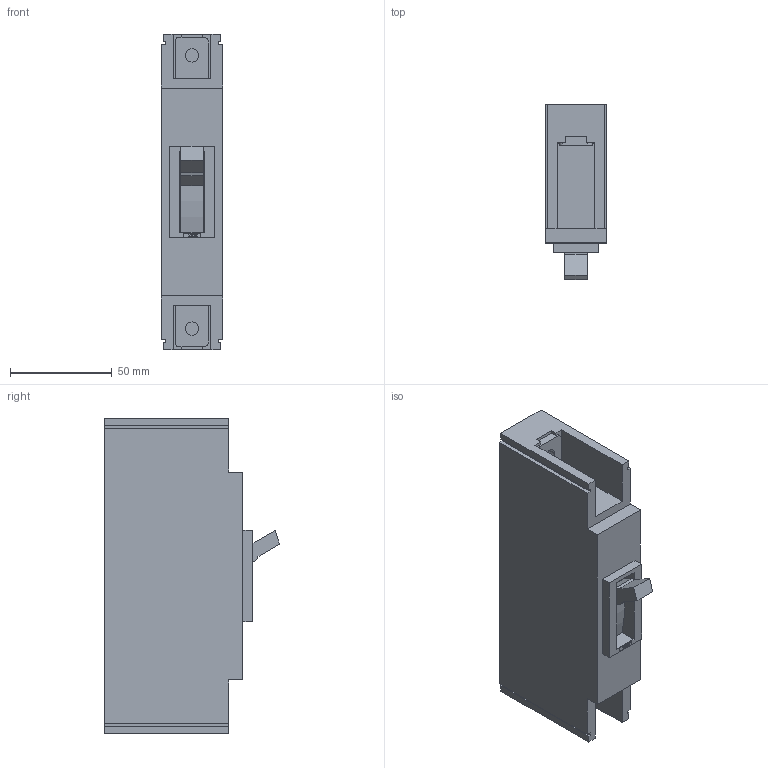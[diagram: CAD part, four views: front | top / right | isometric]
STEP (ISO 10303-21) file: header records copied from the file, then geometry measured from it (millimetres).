
FILE_DESCRIPTION((''),'2;1');
FILE_NAME('S125NF150','2012-09-19T',('cmahecha'),(''),'PRO/ENGINEER BY PARAMETRIC TECHNOLOGY CORPORATION, 2010280','PRO/ENGINEER BY PARAMETRIC TECHNOLOGY CORPORATION, 2010280','');
FILE_SCHEMA(('CONFIG_CONTROL_DESIGN'));
Length unit declared in the file: millimetre
Products named in the file (1): S125NF150
Bounding box: 30 x 86 x 155 mm (x, y, z)
Volume: 272770.9 mm3; surface area: 40459.6 mm2
Topology: 1 solids, 1 shells, 187 faces, 524 edges, 348 vertices
Faces by surface type: plane 177, cylinder 10
Entity records: 5944 total; most frequent: CARTESIAN_POINT 1059, ORIENTED_EDGE 1048, DIRECTION 918, EDGE_CURVE 524, VECTOR 504, LINE 504, VERTEX_POINT 348, AXIS2_PLACEMENT_3D 207
